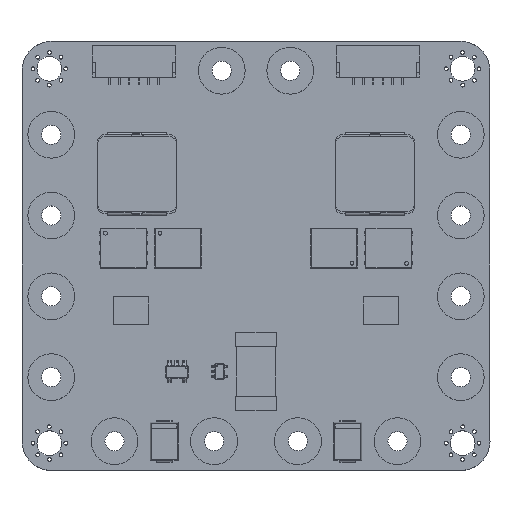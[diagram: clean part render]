
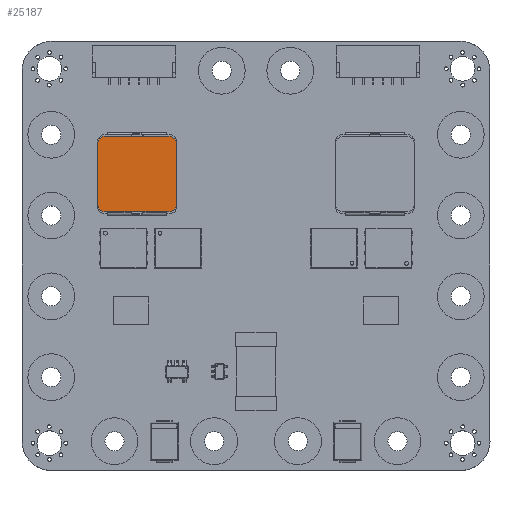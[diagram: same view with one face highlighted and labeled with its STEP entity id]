
A CAD part, top view. The second image highlights one B-rep face of the part: STEP entity #25187.
In plain terms, the highlighted planar face has unit normal (0, 0, 1) as drawn and (0, 1, 0) by its records, which use the part's own axes.
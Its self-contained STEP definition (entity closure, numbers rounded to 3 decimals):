
#1797=CIRCLE('',#27551,1.006);
#1798=CIRCLE('',#27554,1.006);
#1799=CIRCLE('',#27557,1.006);
#1800=CIRCLE('',#27560,1.006);
#2601=FACE_OUTER_BOUND('',#4435,.T.);
#4435=EDGE_LOOP('',(#19106,#19107,#19108,#19109,#19110,#19111,#19112,#19113));
#5991=LINE('',#38606,#8623);
#5994=LINE('',#38614,#8626);
#6003=LINE('',#38632,#8635);
#6005=LINE('',#38638,#8637);
#8623=VECTOR('',#31665,1.);
#8626=VECTOR('',#31674,1.);
#8635=VECTOR('',#31689,1.);
#8637=VECTOR('',#31697,1.);
#11628=VERTEX_POINT('',#38588);
#11629=VERTEX_POINT('',#38590);
#11634=VERTEX_POINT('',#38604);
#11635=VERTEX_POINT('',#38608);
#11636=VERTEX_POINT('',#38612);
#11637=VERTEX_POINT('',#38616);
#11642=VERTEX_POINT('',#38630);
#11643=VERTEX_POINT('',#38634);
#14445=EDGE_CURVE('',#11629,#11628,#1797,.T.);
#14453=EDGE_CURVE('',#11634,#11629,#5991,.T.);
#14455=EDGE_CURVE('',#11635,#11634,#1798,.T.);
#14457=EDGE_CURVE('',#11636,#11635,#5994,.T.);
#14459=EDGE_CURVE('',#11637,#11636,#1799,.T.);
#14467=EDGE_CURVE('',#11642,#11637,#6003,.T.);
#14469=EDGE_CURVE('',#11643,#11642,#1800,.T.);
#14470=EDGE_CURVE('',#11628,#11643,#6005,.T.);
#19106=ORIENTED_EDGE('',*,*,#14445,.F.);
#19107=ORIENTED_EDGE('',*,*,#14453,.F.);
#19108=ORIENTED_EDGE('',*,*,#14455,.F.);
#19109=ORIENTED_EDGE('',*,*,#14457,.F.);
#19110=ORIENTED_EDGE('',*,*,#14459,.F.);
#19111=ORIENTED_EDGE('',*,*,#14467,.F.);
#19112=ORIENTED_EDGE('',*,*,#14469,.F.);
#19113=ORIENTED_EDGE('',*,*,#14470,.F.);
#23331=PLANE('',#27562);
#25187=ADVANCED_FACE('',(#2601),#23331,.T.);
#27551=AXIS2_PLACEMENT_3D('',#38592,#31654,#31655);
#27554=AXIS2_PLACEMENT_3D('',#38610,#31669,#31670);
#27557=AXIS2_PLACEMENT_3D('',#38618,#31678,#31679);
#27560=AXIS2_PLACEMENT_3D('',#38636,#31693,#31694);
#27562=AXIS2_PLACEMENT_3D('',#38639,#31698,#31699);
#31654=DIRECTION('center_axis',(0.,-1.,0.));
#31655=DIRECTION('ref_axis',(0.,0.,1.));
#31665=DIRECTION('',(0.,0.,-1.));
#31669=DIRECTION('center_axis',(0.,-1.,0.));
#31670=DIRECTION('ref_axis',(0.,0.,1.));
#31674=DIRECTION('',(-1.,0.,0.));
#31678=DIRECTION('center_axis',(0.,-1.,0.));
#31679=DIRECTION('ref_axis',(0.,0.,1.));
#31689=DIRECTION('',(0.,0.,1.));
#31693=DIRECTION('center_axis',(0.,-1.,0.));
#31694=DIRECTION('ref_axis',(0.,0.,-1.));
#31697=DIRECTION('',(1.,0.,0.));
#31698=DIRECTION('center_axis',(0.,1.,0.));
#31699=DIRECTION('ref_axis',(0.,0.,1.));
#38588=CARTESIAN_POINT('',(-0.589,6.276,-1.504));
#38590=CARTESIAN_POINT('',(-1.595,6.276,-0.498));
#38592=CARTESIAN_POINT('Origin',(-0.589,6.276,-0.498));
#38604=CARTESIAN_POINT('',(-1.595,6.276,7.604));
#38606=CARTESIAN_POINT('',(-1.595,6.276,-0.498));
#38608=CARTESIAN_POINT('',(-0.589,6.276,8.61));
#38610=CARTESIAN_POINT('Origin',(-0.589,6.276,7.604));
#38612=CARTESIAN_POINT('',(7.107,6.276,8.61));
#38614=CARTESIAN_POINT('',(-0.589,6.276,8.61));
#38616=CARTESIAN_POINT('',(8.113,6.276,7.604));
#38618=CARTESIAN_POINT('Origin',(7.107,6.276,7.604));
#38630=CARTESIAN_POINT('',(8.113,6.276,-0.498));
#38632=CARTESIAN_POINT('',(8.113,6.276,-0.498));
#38634=CARTESIAN_POINT('',(7.107,6.276,-1.504));
#38636=CARTESIAN_POINT('Origin',(7.107,6.276,-0.498));
#38638=CARTESIAN_POINT('',(-0.589,6.276,-1.504));
#38639=CARTESIAN_POINT('Origin',(-0.589,6.276,-0.498));
